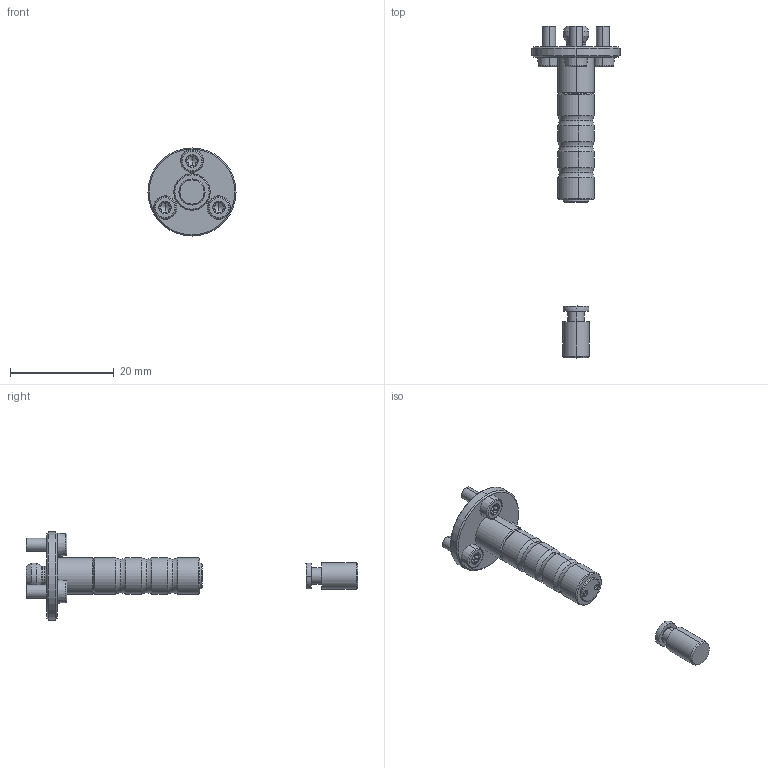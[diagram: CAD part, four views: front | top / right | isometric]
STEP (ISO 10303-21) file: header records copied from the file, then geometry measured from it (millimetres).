
FILE_DESCRIPTION (( 'STEP AP214' ), '1' );
FILE_NAME ('Asyril_ROBOT CALIBRATION TOOL KIT - 380-530_000.102.500(option).STEP', '2019-04-02T13:57:34', ( 'Standard' ), ( '' ), 'SwSTEP 2.0', 'SolidWorks 2017', '' );
FILE_SCHEMA (( 'AUTOMOTIVE_DESIGN' ));
Length unit declared in the file: millimetre
Products named in the file (3): Asyril_ROBOT CALIBRATION TOOL KIT - 380-530_000.102.500(option); Asyril_ROBOT CALIBRATION TOOL_000.102.067_(option); Asyril_ROBOT CALIBRATION PIN - 380-530_000.102.255_(option)
Assembly tree (2 placements, depth 2):
  Asyril_ROBOT CALIBRATION TOOL KIT - 380-530_000.102.500(option)
    Asyril_ROBOT CALIBRATION TOOL_000.102.067_(option)
    Asyril_ROBOT CALIBRATION PIN - 380-530_000.102.255_(option)
Bounding box: 17 x 64 x 17 mm (x, y, z)
Volume: 1847.4 mm3; surface area: 1767.1 mm2
Topology: 5 solids, 5 shells, 223 faces, 519 edges, 312 vertices
Faces by surface type: cylinder 89, cone 61, plane 39, torus 32, sphere 2
Entity records: 6875 total; most frequent: CARTESIAN_POINT 1675, DIRECTION 1088, ORIENTED_EDGE 1016, EDGE_CURVE 508, AXIS2_PLACEMENT_3D 478, VERTEX_POINT 309, CIRCLE 250, EDGE_LOOP 243
